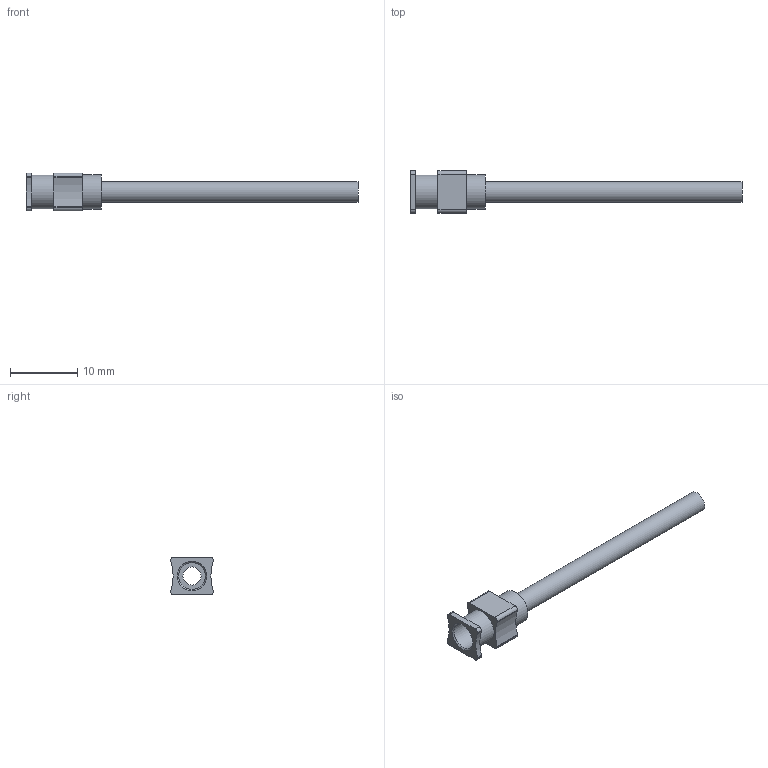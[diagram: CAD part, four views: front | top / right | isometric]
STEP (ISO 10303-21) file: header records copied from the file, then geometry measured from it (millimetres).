
FILE_DESCRIPTION (( 'STEP AP214' ), '1' );
FILE_NAME ('DAV SS 11 15.STEP', '2022-04-14T11:17:54', ( '' ), ( '' ), 'SwSTEP 2.0', 'SolidWorks 2021', '' );
FILE_SCHEMA (( 'AUTOMOTIVE_DESIGN' ));
Length unit declared in the file: millimetre
Products named in the file (1): DAV SS 11 15
Bounding box: 49.3 x 6.3 x 5.6 mm (x, y, z)
Volume: 246.2 mm3; surface area: 1113 mm2
Topology: 1 solids, 1 shells, 37 faces, 90 edges, 60 vertices
Faces by surface type: plane 19, cylinder 17, cone 1
Full cylindrical faces by diameter (mm): 2.7 x1, 3.1 x1, 4 x1, 5 x1, 5.1 x1
Entity records: 1098 total; most frequent: DIRECTION 194, CARTESIAN_POINT 180, ORIENTED_EDGE 166, EDGE_CURVE 83, AXIS2_PLACEMENT_3D 73, VERTEX_POINT 59, EDGE_LOOP 50, LINE 48
